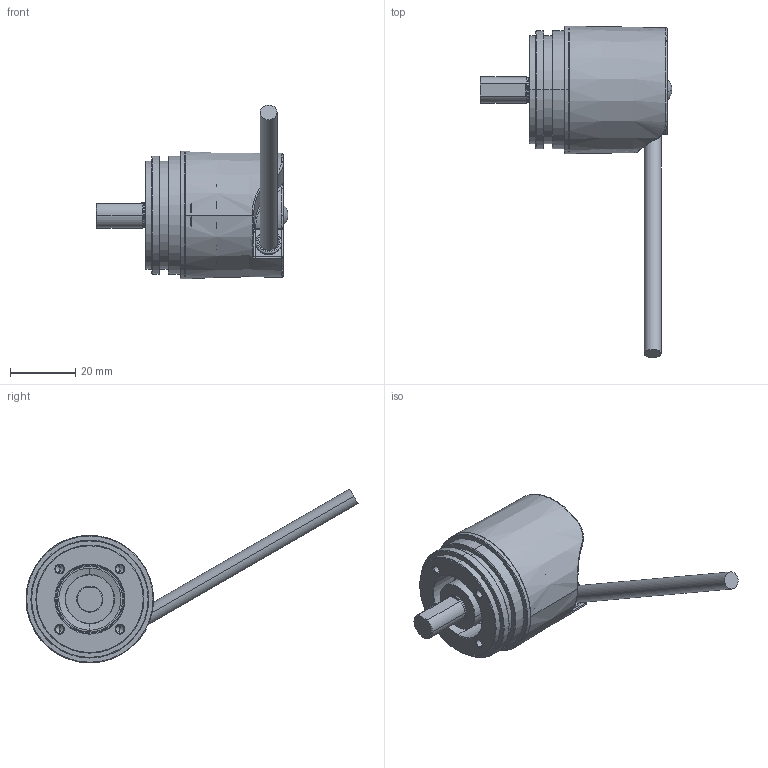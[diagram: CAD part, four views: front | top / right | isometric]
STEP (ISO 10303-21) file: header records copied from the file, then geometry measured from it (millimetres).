
FILE_DESCRIPTION (( 'STEP AP214' ), '1' );
FILE_NAME ('F3658.4321.XXXX.STEP', '2010-02-17T10:55:51', ( 'admin' ), ( 'Fritz Kübler GmbH' ), 'SwSTEP 2.0', 'SolidWorks 2009', '' );
FILE_SCHEMA (( 'AUTOMOTIVE_DESIGN' ));
Length unit declared in the file: millimetre
Products named in the file (1): F3658.4321.XXXX
Bounding box: 58.63 x 101.42 x 53.11 mm (x, y, z)
Volume: 24712 mm3; surface area: 22317.5 mm2
Topology: 7 solids, 7 shells, 988 faces, 2431 edges, 1497 vertices
Faces by surface type: plane 279, bspline 267, cylinder 212, cone 133, torus 87, sphere 10
Entity records: 47193 total; most frequent: CARTESIAN_POINT 14732, ORIENTED_EDGE 4830, DIRECTION 4013, EDGE_CURVE 2415, AXIS2_PLACEMENT_3D 1531, VERTEX_POINT 1497, EDGE_LOOP 1056, UNCERTAINTY_MEASURE_WITH_UNIT 997
